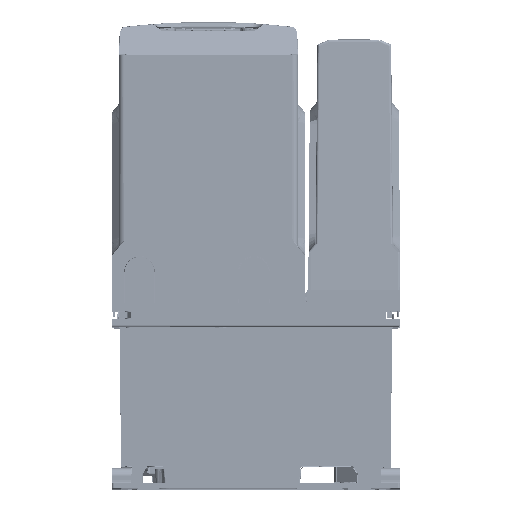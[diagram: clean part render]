
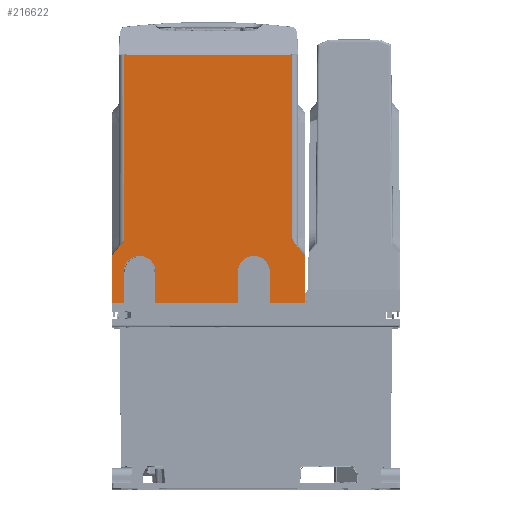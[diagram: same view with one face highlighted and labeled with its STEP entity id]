
A CAD part, top view. The second image highlights one B-rep face of the part: STEP entity #216622.
In plain terms, the highlighted planar face has unit normal (0, 0, 1).
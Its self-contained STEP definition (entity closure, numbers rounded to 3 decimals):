
#199142=DIRECTION('',(0.,1.,0.));
#199143=VECTOR('',#199142,20.421);
#199144=CARTESIAN_POINT('',(-61.65,10.303,182.138));
#199145=LINE('',#199144,#199143);
#199146=DIRECTION('',(0.643,0.766,0.));
#199147=VECTOR('',#199146,8.245);
#199148=CARTESIAN_POINT('',(-61.65,30.724,182.138));
#199149=LINE('',#199148,#199147);
#199150=DIRECTION('',(1.,0.,0.));
#199151=VECTOR('',#199150,72.);
#199152=CARTESIAN_POINT('',(-56.35,116.787,182.138));
#199153=LINE('',#199152,#199151);
#199154=DIRECTION('',(0.,1.,0.));
#199155=VECTOR('',#199154,79.124);
#199156=CARTESIAN_POINT('',(15.65,37.663,
182.138));
#199157=LINE('',#199156,#199155);
#199158=CARTESIAN_POINT('',(15.65,37.663,
182.138));
#199159=CARTESIAN_POINT('',(15.673,37.615,
182.138));
#199160=CARTESIAN_POINT('',(15.72,37.517,
182.138));
#199161=CARTESIAN_POINT('',(15.796,37.359,
182.138));
#199162=CARTESIAN_POINT('',(15.881,37.186,
182.138));
#199163=CARTESIAN_POINT('',(15.981,36.984,
182.138));
#199164=CARTESIAN_POINT('',(16.09,36.773,
182.138));
#199165=CARTESIAN_POINT('',(16.2,36.568,
182.138));
#199166=CARTESIAN_POINT('',(16.31,36.373,
182.138));
#199167=CARTESIAN_POINT('',(16.42,36.19,
182.138));
#199168=CARTESIAN_POINT('',(16.532,36.018,
182.138));
#199169=CARTESIAN_POINT('',(16.645,35.861,
182.138));
#199170=CARTESIAN_POINT('',(16.72,35.765,
182.138));
#199171=CARTESIAN_POINT('',(16.758,35.72,
182.138));
#199173=DIRECTION('',(0.643,-0.766,0.));
#199174=VECTOR('',#199173,6.522);
#199175=CARTESIAN_POINT('',(16.758,35.72,
182.138));
#199176=LINE('',#199175,#199174);
#199177=DIRECTION('',(0.,-1.,0.));
#199178=VECTOR('',#199177,20.421);
#199179=CARTESIAN_POINT('',(20.95,30.724,182.138));
#199180=LINE('',#199179,#199178);
#199181=DIRECTION('',(-1.,0.,0.));
#199182=VECTOR('',#199181,14.97);
#199183=CARTESIAN_POINT('',(20.95,10.303,182.138));
#199184=LINE('',#199183,#199182);
#199185=DIRECTION('',(0.,1.,0.));
#199186=VECTOR('',#199185,13.354);
#199187=CARTESIAN_POINT('',(5.98,10.303,182.138));
#199188=LINE('',#199187,#199186);
#199189=CARTESIAN_POINT('',(-0.85,23.657,182.138));
#199190=DIRECTION('',(0.,0.,1.));
#199191=DIRECTION('',(1.,0.,0.));
#199192=AXIS2_PLACEMENT_3D('',#199189,#199190,#199191);
#199194=DIRECTION('',(0.,-1.,0.));
#199195=VECTOR('',#199194,13.354);
#199196=CARTESIAN_POINT('',(-7.68,23.657,182.138));
#199197=LINE('',#199196,#199195);
#199198=DIRECTION('',(-1.,0.,0.));
#199199=VECTOR('',#199198,35.36);
#199200=CARTESIAN_POINT('',(-7.68,10.303,182.138));
#199201=LINE('',#199200,#199199);
#199202=DIRECTION('',(0.,1.,0.));
#199203=VECTOR('',#199202,13.354);
#199204=CARTESIAN_POINT('',(-43.04,10.303,182.138));
#199205=LINE('',#199204,#199203);
#199206=CARTESIAN_POINT('',(-49.87,23.657,182.138));
#199207=DIRECTION('',(0.,0.,1.));
#199208=DIRECTION('',(1.,0.,0.));
#199209=AXIS2_PLACEMENT_3D('',#199206,#199207,#199208);
#199211=DIRECTION('',(0.,-1.,0.));
#199212=VECTOR('',#199211,13.354);
#199213=CARTESIAN_POINT('',(-56.7,23.657,182.138));
#199214=LINE('',#199213,#199212);
#199215=DIRECTION('',(-1.,0.,0.));
#199216=VECTOR('',#199215,4.95);
#199217=CARTESIAN_POINT('',(-56.7,10.303,182.138));
#199218=LINE('',#199217,#199216);
#206730=DIRECTION('',(0.,-1.,0.));
#206731=VECTOR('',#206730,79.747);
#206732=CARTESIAN_POINT('',(-56.35,116.787,182.138));
#206733=LINE('',#206732,#206731);
#213399=CARTESIAN_POINT('',(-7.68,10.303,182.138));
#213400=CARTESIAN_POINT('',(-43.04,10.303,182.138));
#213401=VERTEX_POINT('',#213399);
#213402=VERTEX_POINT('',#213400);
#213411=CARTESIAN_POINT('',(-43.04,23.657,182.138));
#213412=CARTESIAN_POINT('',(-56.7,23.657,182.138));
#213413=VERTEX_POINT('',#213411);
#213414=VERTEX_POINT('',#213412);
#213415=CARTESIAN_POINT('',(-56.7,10.303,182.138));
#213416=VERTEX_POINT('',#213415);
#213425=CARTESIAN_POINT('',(5.98,23.657,182.138));
#213426=CARTESIAN_POINT('',(-7.68,23.657,182.138));
#213427=VERTEX_POINT('',#213425);
#213428=VERTEX_POINT('',#213426);
#213429=CARTESIAN_POINT('',(5.98,10.303,182.138));
#213430=VERTEX_POINT('',#213429);
#215459=CARTESIAN_POINT('',(15.65,116.787,182.138));
#215460=VERTEX_POINT('',#215459);
#215463=CARTESIAN_POINT('',(-56.35,116.787,182.138));
#215464=VERTEX_POINT('',#215463);
#215690=CARTESIAN_POINT('',(-61.65,30.724,182.138));
#215691=CARTESIAN_POINT('',(-61.65,10.303,182.138));
#215692=VERTEX_POINT('',#215690);
#215693=VERTEX_POINT('',#215691);
#215694=CARTESIAN_POINT('',(-56.35,37.04,182.138));
#215695=VERTEX_POINT('',#215694);
#215700=VERTEX_POINT('',#199171);
#215701=VERTEX_POINT('',#199158);
#215702=CARTESIAN_POINT('',(20.95,30.724,182.138));
#215703=VERTEX_POINT('',#215702);
#215708=CARTESIAN_POINT('',(20.95,10.303,182.138));
#215709=VERTEX_POINT('',#215708);
#216581=CARTESIAN_POINT('',(-61.85,16.007,182.138));
#216582=DIRECTION('',(0.,0.,1.));
#216583=DIRECTION('',(1.,0.,0.));
#216584=AXIS2_PLACEMENT_3D('',#216581,#216582,#216583);
#216585=PLANE('',#216584);
#216587=ORIENTED_EDGE('',*,*,#216586,.T.);
#216589=ORIENTED_EDGE('',*,*,#216588,.T.);
#216591=ORIENTED_EDGE('',*,*,#216590,.F.);
#216593=ORIENTED_EDGE('',*,*,#216592,.T.);
#216595=ORIENTED_EDGE('',*,*,#216594,.F.);
#216597=ORIENTED_EDGE('',*,*,#216596,.T.);
#216599=ORIENTED_EDGE('',*,*,#216598,.T.);
#216601=ORIENTED_EDGE('',*,*,#216600,.T.);
#216603=ORIENTED_EDGE('',*,*,#216602,.T.);
#216605=ORIENTED_EDGE('',*,*,#216604,.T.);
#216607=ORIENTED_EDGE('',*,*,#216606,.T.);
#216609=ORIENTED_EDGE('',*,*,#216608,.T.);
#216611=ORIENTED_EDGE('',*,*,#216610,.T.);
#216613=ORIENTED_EDGE('',*,*,#216612,.T.);
#216615=ORIENTED_EDGE('',*,*,#216614,.T.);
#216617=ORIENTED_EDGE('',*,*,#216616,.T.);
#216619=ORIENTED_EDGE('',*,*,#216618,.T.);
#216620=EDGE_LOOP('',(#216587,#216589,#216591,#216593,#216595,#216597,#216599,
#216601,#216603,#216605,#216607,#216609,#216611,#216613,#216615,#216617,
#216619));
#216621=FACE_OUTER_BOUND('',#216620,.F.);
#216622=ADVANCED_FACE('',(#216621),#216585,.T.);
#199172=B_SPLINE_CURVE_WITH_KNOTS('',3,(#199158,#199159,#199160,#199161,#199162,
#199163,#199164,#199165,#199166,#199167,#199168,#199169,#199170,#199171),
.UNSPECIFIED.,.F.,.F.,(4,1,1,1,1,1,1,1,1,1,1,4),(0.,0.091,
0.182,0.273,0.364,0.455,
0.545,0.636,0.727,0.818,
0.909,1.),.UNSPECIFIED.);
#199193=CIRCLE('',#199192,6.83);
#199210=CIRCLE('',#199209,6.83);
#216586=EDGE_CURVE('',#215693,#215692,#199145,.T.);
#216588=EDGE_CURVE('',#215692,#215695,#199149,.T.);
#216590=EDGE_CURVE('',#215464,#215695,#206733,.T.);
#216592=EDGE_CURVE('',#215464,#215460,#199153,.T.);
#216594=EDGE_CURVE('',#215701,#215460,#199157,.T.);
#216596=EDGE_CURVE('',#215701,#215700,#199172,.T.);
#216598=EDGE_CURVE('',#215700,#215703,#199176,.T.);
#216600=EDGE_CURVE('',#215703,#215709,#199180,.T.);
#216602=EDGE_CURVE('',#215709,#213430,#199184,.T.);
#216604=EDGE_CURVE('',#213430,#213427,#199188,.T.);
#216606=EDGE_CURVE('',#213427,#213428,#199193,.T.);
#216608=EDGE_CURVE('',#213428,#213401,#199197,.T.);
#216610=EDGE_CURVE('',#213401,#213402,#199201,.T.);
#216612=EDGE_CURVE('',#213402,#213413,#199205,.T.);
#216614=EDGE_CURVE('',#213413,#213414,#199210,.T.);
#216616=EDGE_CURVE('',#213414,#213416,#199214,.T.);
#216618=EDGE_CURVE('',#213416,#215693,#199218,.T.);
